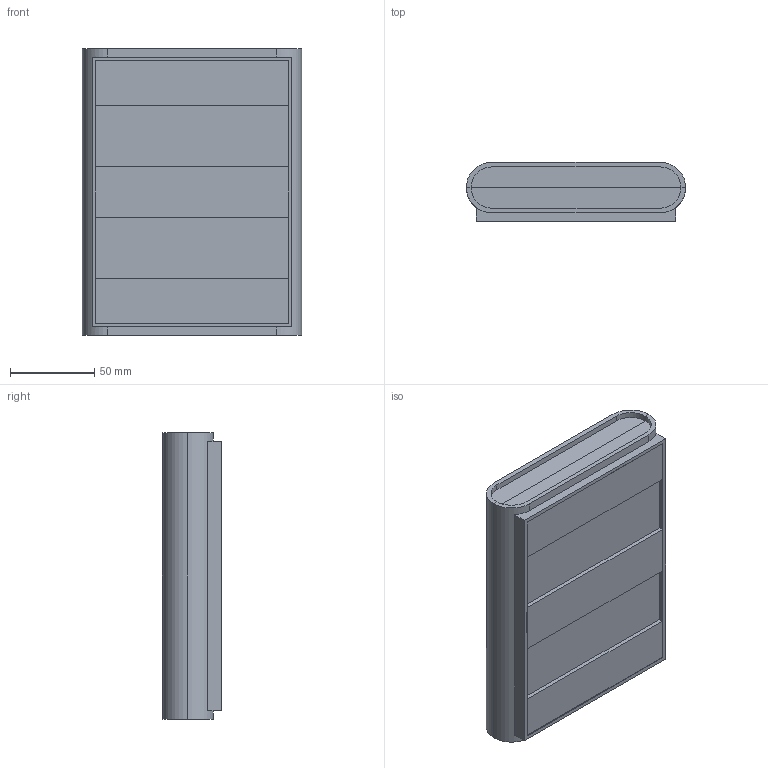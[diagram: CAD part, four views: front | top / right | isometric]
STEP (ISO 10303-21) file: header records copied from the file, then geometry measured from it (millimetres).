
FILE_DESCRIPTION (( 'STEP AP214' ), '1' );
FILE_NAME ('Conjunt PP107G.STEP', '2017-08-01T08:10:56', ( 'aaa' ), ( '' ), 'SwSTEP 2.0', 'SolidWorks 2013', '' );
FILE_SCHEMA (( 'AUTOMOTIVE_DESIGN' ));
Length unit declared in the file: millimetre
Products named in the file (4): Cargol 3x8; Tapa PP107G; Cos PP107G; Conjunt PP107G
Assembly tree (6 placements, depth 2):
  Conjunt PP107G
    Cos PP107G
    Tapa PP107G
    Cargol 3x8  x4
Bounding box: 130 x 35 x 170 mm (x, y, z)
Volume: 139016.6 mm3; surface area: 125429 mm2
Topology: 6 solids, 6 shells, 588 faces, 1418 edges, 866 vertices
Faces by surface type: plane 332, cone 180, cylinder 68, torus 8
Entity records: 12158 total; most frequent: CARTESIAN_POINT 2105, DIRECTION 2070, ORIENTED_EDGE 2040, EDGE_CURVE 1020, VECTOR 782, LINE 782, VERTEX_POINT 647, AXIS2_PLACEMENT_3D 644
